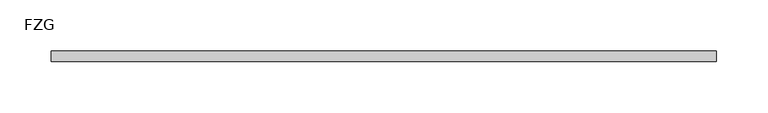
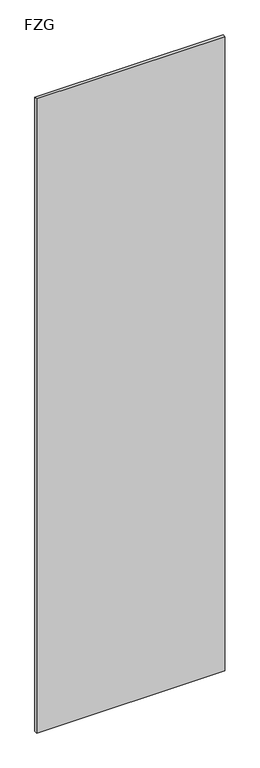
"""IFC4 building model written with IfcOpenShell, lengths in millimetres: plate geometry, Panel-Glass-Teknion-OptosLP : FZG."""

from ifc_helpers import new_model, si_unit, origin, origin_with_axes, place, context, project, spatial, polyline, outline, extrude, source, transform, mapped, element, save


def fzg_35d74fef(model_context):
    return source(origin(), model_context, "Body", "SweptSolid", [
        extrude(outline(polyline([(324.455807, 5.0038), (324.455807, -5.0038), (-324.455807, -5.0038), (-324.455807, 5.0038), (324.455807, 5.0038)])), origin_with_axes(), (0.0, 0.0, 1.0), 2311.3967225),
    ])


if __name__ == "__main__":
    model = new_model("IFC4")
    model_context = context("Model", 3, world=origin())
    ifc_project = project(units=[si_unit("LENGTHUNIT", "METRE", prefix="MILLI")], contexts=[model_context])
    site = spatial("IfcSite", under=ifc_project)
    building = spatial("IfcBuilding", under=site)
    placement = place(None, origin())
    fzg_shape = fzg_35d74fef(model_context)
    element("IfcPlate", 1, ObjectType="Panel-Glass-Teknion-OptosLP : FZG", at=placement, inside=building, context=model_context, shape_type="MappedRepresentation", body=[
        mapped(fzg_shape, transform((0.0, 0.0, 0.0), x_axis=(1.0, 0.0, 0.0), y_axis=(0.0, 1.0, 0.0), z_axis=(0.0, 0.0, 1.0))),
    ])
    save(model, "model.ifc")
